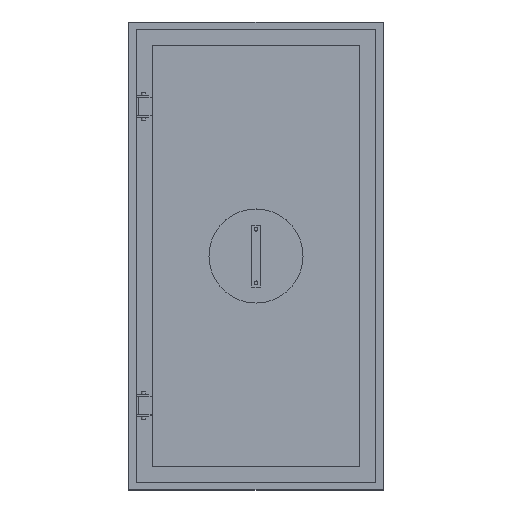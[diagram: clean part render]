
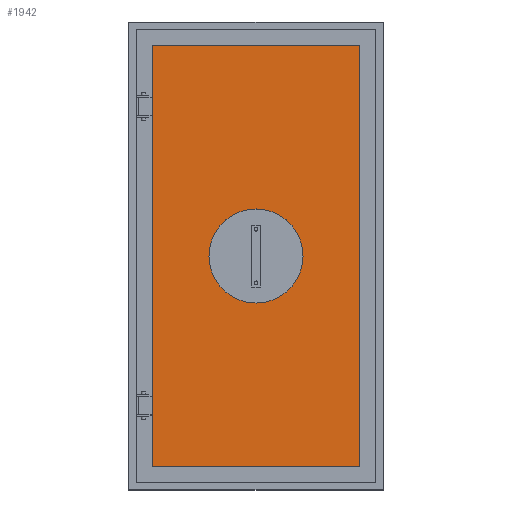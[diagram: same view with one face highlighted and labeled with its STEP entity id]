
A CAD part, top view. The second image highlights one B-rep face of the part: STEP entity #1942.
In plain terms, the highlighted planar face has unit normal (0, 0, 1).
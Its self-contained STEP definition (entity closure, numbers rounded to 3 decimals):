
#200=DIRECTION('',(0.,-1.,0.));
#201=VECTOR('',#200,1972.);
#202=CARTESIAN_POINT('',(-486.,986.,-16.));
#203=LINE('',#202,#201);
#204=DIRECTION('',(-1.,0.,0.));
#205=VECTOR('',#204,972.);
#206=CARTESIAN_POINT('',(486.,986.,-16.));
#207=LINE('',#206,#205);
#208=DIRECTION('',(0.,1.,0.));
#209=VECTOR('',#208,1972.);
#210=CARTESIAN_POINT('',(486.,-986.,-16.));
#211=LINE('',#210,#209);
#212=DIRECTION('',(1.,0.,0.));
#213=VECTOR('',#212,972.);
#214=CARTESIAN_POINT('',(-486.,-986.,-16.));
#215=LINE('',#214,#213);
#216=CARTESIAN_POINT('',(0.,0.,-16.));
#217=DIRECTION('',(0.,0.,1.));
#218=DIRECTION('',(1.,0.,0.));
#219=AXIS2_PLACEMENT_3D('',#216,#217,#218);
#221=CARTESIAN_POINT('',(0.,0.,-16.));
#222=DIRECTION('',(0.,0.,1.));
#223=DIRECTION('',(-1.,0.,0.));
#224=AXIS2_PLACEMENT_3D('',#221,#222,#223);
#1396=CARTESIAN_POINT('',(-486.,986.,-16.));
#1397=CARTESIAN_POINT('',(-486.,-986.,-16.));
#1398=VERTEX_POINT('',#1396);
#1399=VERTEX_POINT('',#1397);
#1400=CARTESIAN_POINT('',(486.,-986.,-16.));
#1401=VERTEX_POINT('',#1400);
#1402=CARTESIAN_POINT('',(486.,986.,-16.));
#1403=VERTEX_POINT('',#1402);
#1694=CARTESIAN_POINT('',(220.,0.,-16.));
#1695=CARTESIAN_POINT('',(-220.,0.,-16.));
#1696=VERTEX_POINT('',#1694);
#1697=VERTEX_POINT('',#1695);
#1923=CARTESIAN_POINT('',(0.,0.,-16.));
#1924=DIRECTION('',(0.,0.,1.));
#1925=DIRECTION('',(1.,0.,0.));
#1926=AXIS2_PLACEMENT_3D('',#1923,#1924,#1925);
#1927=PLANE('',#1926);
#1928=ORIENTED_EDGE('',*,*,#1838,.F.);
#1930=ORIENTED_EDGE('',*,*,#1929,.F.);
#1932=ORIENTED_EDGE('',*,*,#1931,.F.);
#1933=ORIENTED_EDGE('',*,*,#1909,.F.);
#1934=EDGE_LOOP('',(#1928,#1930,#1932,#1933));
#1935=FACE_OUTER_BOUND('',#1934,.F.);
#1937=ORIENTED_EDGE('',*,*,#1936,.T.);
#1939=ORIENTED_EDGE('',*,*,#1938,.T.);
#1940=EDGE_LOOP('',(#1937,#1939));
#1941=FACE_BOUND('',#1940,.F.);
#220=CIRCLE('',#219,220.);
#225=CIRCLE('',#224,220.);
#1838=EDGE_CURVE('',#1398,#1399,#203,.T.);
#1909=EDGE_CURVE('',#1399,#1401,#215,.T.);
#1929=EDGE_CURVE('',#1403,#1398,#207,.T.);
#1931=EDGE_CURVE('',#1401,#1403,#211,.T.);
#1936=EDGE_CURVE('',#1696,#1697,#220,.T.);
#1938=EDGE_CURVE('',#1697,#1696,#225,.T.);
#1942=ADVANCED_FACE('',(#1935,#1941),#1927,.T.);
